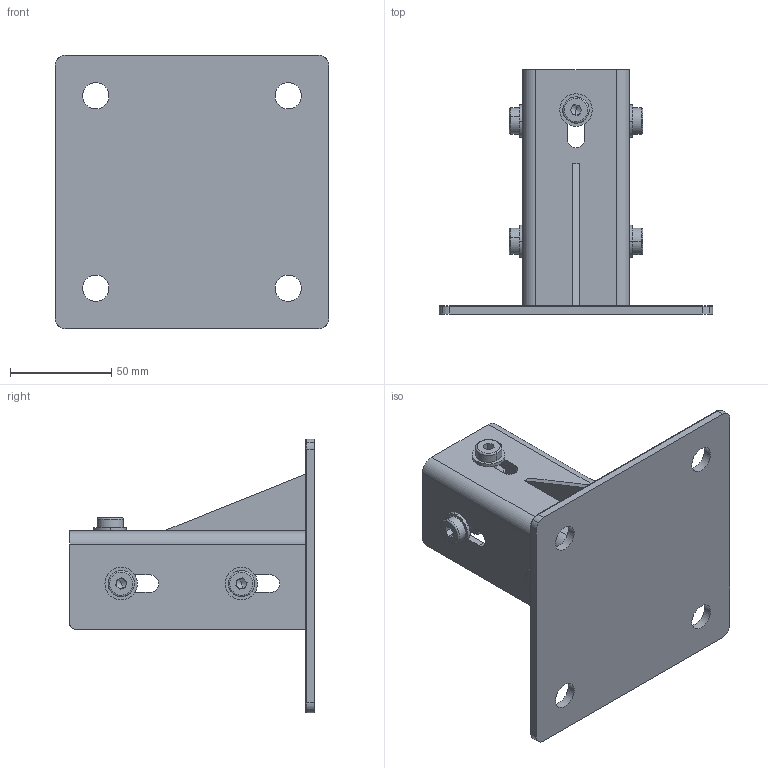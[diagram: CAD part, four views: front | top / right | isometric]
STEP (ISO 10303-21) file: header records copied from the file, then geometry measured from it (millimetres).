
FILE_DESCRIPTION (( 'STEP AP214' ), '1' );
FILE_NAME ('1.5041 Lattiakiinnike 45 avoin C.STEP', '2025-09-16T09:54:23', ( '' ), ( '' ), 'SwSTEP 2.0', 'SolidWorks 2025', '' );
FILE_SCHEMA (( 'AUTOMOTIVE_DESIGN' ));
Length unit declared in the file: millimetre
Products named in the file (1): 1.5041 Lattiakiinnike 45 avoin C
Bounding box: 135 x 120.7 x 135 mm (x, y, z)
Volume: 139405.8 mm3; surface area: 85070.2 mm2
Topology: 18 solids, 18 shells, 413 faces, 987 edges, 610 vertices
Faces by surface type: plane 234, cylinder 110, cone 45, torus 24
Entity records: 17098 total; most frequent: CARTESIAN_POINT 2706, DIRECTION 2039, ORIENTED_EDGE 1954, EDGE_CURVE 977, AXIS2_PLACEMENT_3D 743, VERTEX_POINT 610, VECTOR 553, LINE 553
